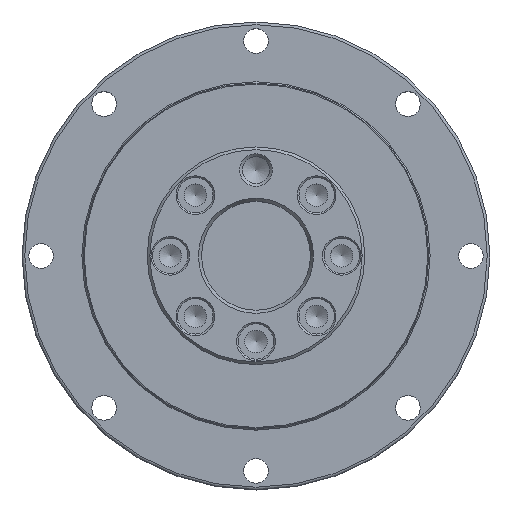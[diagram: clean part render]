
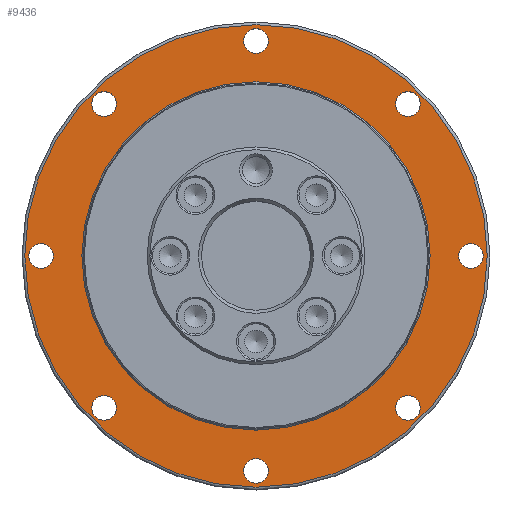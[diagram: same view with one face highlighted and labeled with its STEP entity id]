
A CAD part, top view. The second image highlights one B-rep face of the part: STEP entity #9436.
In plain terms, the highlighted planar face has unit normal (0, 0, 1).
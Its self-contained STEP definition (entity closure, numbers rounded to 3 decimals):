
#9032=CARTESIAN_POINT('',(-39.5,2.25,53.8));
#9033=VERTEX_POINT('',#9032);
#9034=CARTESIAN_POINT('',(-39.5,0.,53.8));
#9035=DIRECTION('',(0.0,0.0,-1.0));
#9036=DIRECTION('',(0.0,-1.0,0.0));
#9037=AXIS2_PLACEMENT_3D('',#9034,#9035,#9036);
#9038=CIRCLE('',#9037,2.25);
#9039=EDGE_CURVE('',#9033,#9033,#9038,.T.);
#9060=CARTESIAN_POINT('',(-29.522,-26.34,53.8));
#9061=VERTEX_POINT('',#9060);
#9062=CARTESIAN_POINT('',(-27.931,-27.931,53.8));
#9063=DIRECTION('',(0.,0.,-1.0));
#9064=DIRECTION('',(0.707,-0.707,0.));
#9065=AXIS2_PLACEMENT_3D('',#9062,#9063,#9064);
#9066=CIRCLE('',#9065,2.25);
#9067=EDGE_CURVE('',#9061,#9061,#9066,.T.);
#9088=CARTESIAN_POINT('',(-2.25,-39.5,53.8));
#9089=VERTEX_POINT('',#9088);
#9090=CARTESIAN_POINT('',(0.,-39.5,53.8));
#9091=DIRECTION('',(0.0,0.0,-1.0));
#9092=DIRECTION('',(1.0,0.0,0.0));
#9093=AXIS2_PLACEMENT_3D('',#9090,#9091,#9092);
#9094=CIRCLE('',#9093,2.25);
#9095=EDGE_CURVE('',#9089,#9089,#9094,.T.);
#9116=CARTESIAN_POINT('',(26.34,-29.522,53.8));
#9117=VERTEX_POINT('',#9116);
#9118=CARTESIAN_POINT('',(27.931,-27.931,53.8));
#9119=DIRECTION('',(0.,0.,-1.0));
#9120=DIRECTION('',(0.707,0.707,0.));
#9121=AXIS2_PLACEMENT_3D('',#9118,#9119,#9120);
#9122=CIRCLE('',#9121,2.25);
#9123=EDGE_CURVE('',#9117,#9117,#9122,.T.);
#9144=CARTESIAN_POINT('',(39.5,-2.25,53.8));
#9145=VERTEX_POINT('',#9144);
#9146=CARTESIAN_POINT('',(39.5,0.,53.8));
#9147=DIRECTION('',(0.0,0.0,-1.0));
#9148=DIRECTION('',(0.0,1.0,0.0));
#9149=AXIS2_PLACEMENT_3D('',#9146,#9147,#9148);
#9150=CIRCLE('',#9149,2.25);
#9151=EDGE_CURVE('',#9145,#9145,#9150,.T.);
#9172=CARTESIAN_POINT('',(29.522,26.34,53.8));
#9173=VERTEX_POINT('',#9172);
#9174=CARTESIAN_POINT('',(27.931,27.931,53.8));
#9175=DIRECTION('',(0.,0.,-1.0));
#9176=DIRECTION('',(-0.707,0.707,0.));
#9177=AXIS2_PLACEMENT_3D('',#9174,#9175,#9176);
#9178=CIRCLE('',#9177,2.25);
#9179=EDGE_CURVE('',#9173,#9173,#9178,.T.);
#9200=CARTESIAN_POINT('',(2.25,39.5,53.8));
#9201=VERTEX_POINT('',#9200);
#9202=CARTESIAN_POINT('',(0.,39.5,53.8));
#9203=DIRECTION('',(0.0,0.0,-1.0));
#9204=DIRECTION('',(-1.0,0.0,0.0));
#9205=AXIS2_PLACEMENT_3D('',#9202,#9203,#9204);
#9206=CIRCLE('',#9205,2.25);
#9207=EDGE_CURVE('',#9201,#9201,#9206,.T.);
#9228=CARTESIAN_POINT('',(-26.34,29.522,53.8));
#9229=VERTEX_POINT('',#9228);
#9230=CARTESIAN_POINT('',(-27.931,27.931,53.8));
#9231=DIRECTION('',(0.,0.,-1.0));
#9232=DIRECTION('',(-0.707,-0.707,0.));
#9233=AXIS2_PLACEMENT_3D('',#9230,#9231,#9232);
#9234=CIRCLE('',#9233,2.25);
#9235=EDGE_CURVE('',#9229,#9229,#9234,.T.);
#9302=CARTESIAN_POINT('',(0.,32.,53.8));
#9303=VERTEX_POINT('',#9302);
#9304=CARTESIAN_POINT('',(0.,0.,53.8));
#9305=DIRECTION('',(0.0,0.0,-1.0));
#9306=DIRECTION('',(0.0,-1.0,0.0));
#9307=AXIS2_PLACEMENT_3D('',#9304,#9305,#9306);
#9308=CIRCLE('',#9307,32.0);
#9309=EDGE_CURVE('',#9303,#9303,#9308,.T.);
#9393=CARTESIAN_POINT('',(0.,0.,53.8));
#9394=DIRECTION('',(0.0,0.0,-1.0));
#9395=DIRECTION('',(0.0,-1.0,0.0));
#9396=AXIS2_PLACEMENT_3D('',#9393,#9394,#9395);
#9397=PLANE('',#9396);
#9398=CARTESIAN_POINT('',(0.,42.5,53.8));
#9399=VERTEX_POINT('',#9398);
#9400=CARTESIAN_POINT('',(0.,0.,53.8));
#9401=DIRECTION('',(0.0,0.0,-1.0));
#9402=DIRECTION('',(0.0,-1.0,0.0));
#9403=AXIS2_PLACEMENT_3D('',#9400,#9401,#9402);
#9404=CIRCLE('',#9403,42.5);
#9405=EDGE_CURVE('',#9399,#9399,#9404,.T.);
#9406=ORIENTED_EDGE('',*,*,#9405,.F.);
#9407=EDGE_LOOP('',(#9406));
#9408=FACE_OUTER_BOUND('',#9407,.T.);
#9409=ORIENTED_EDGE('',*,*,#9309,.T.);
#9410=EDGE_LOOP('',(#9409));
#9411=FACE_BOUND('',#9410,.T.);
#9412=ORIENTED_EDGE('',*,*,#9039,.T.);
#9413=EDGE_LOOP('',(#9412));
#9414=FACE_BOUND('',#9413,.T.);
#9415=ORIENTED_EDGE('',*,*,#9067,.T.);
#9416=EDGE_LOOP('',(#9415));
#9417=FACE_BOUND('',#9416,.T.);
#9418=ORIENTED_EDGE('',*,*,#9095,.T.);
#9419=EDGE_LOOP('',(#9418));
#9420=FACE_BOUND('',#9419,.T.);
#9421=ORIENTED_EDGE('',*,*,#9123,.T.);
#9422=EDGE_LOOP('',(#9421));
#9423=FACE_BOUND('',#9422,.T.);
#9424=ORIENTED_EDGE('',*,*,#9151,.T.);
#9425=EDGE_LOOP('',(#9424));
#9426=FACE_BOUND('',#9425,.T.);
#9427=ORIENTED_EDGE('',*,*,#9179,.T.);
#9428=EDGE_LOOP('',(#9427));
#9429=FACE_BOUND('',#9428,.T.);
#9430=ORIENTED_EDGE('',*,*,#9207,.T.);
#9431=EDGE_LOOP('',(#9430));
#9432=FACE_BOUND('',#9431,.T.);
#9433=ORIENTED_EDGE('',*,*,#9235,.T.);
#9434=EDGE_LOOP('',(#9433));
#9435=FACE_BOUND('',#9434,.T.);
#9436=ADVANCED_FACE('',(#9408,#9411,#9414,#9417,#9420,#9423,#9426,#9429,#9432,#9435),#9397,.F.);
